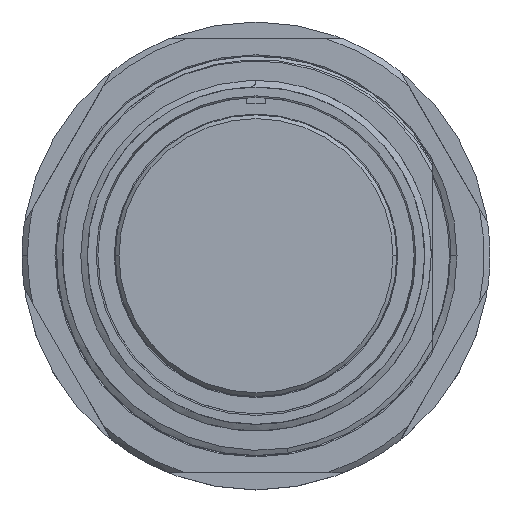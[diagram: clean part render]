
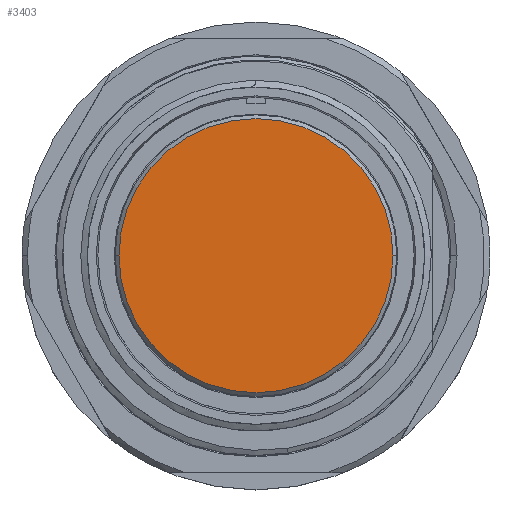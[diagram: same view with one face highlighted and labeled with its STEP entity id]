
A CAD part, top view. The second image highlights one B-rep face of the part: STEP entity #3403.
In plain terms, the highlighted planar face has unit normal (0, 0, 1).
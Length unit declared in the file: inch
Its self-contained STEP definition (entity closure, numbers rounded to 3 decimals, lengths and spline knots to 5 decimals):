
#9 = CARTESIAN_POINT ( 'NONE',  ( 0., 0., -0.018 ) ) ;
#742 = CARTESIAN_POINT ( 'NONE',  ( 0., 0., -0.018 ) ) ;
#811 = FACE_OUTER_BOUND ( 'NONE', #9049, .T. ) ;
#1071 = AXIS2_PLACEMENT_3D ( 'NONE', #742, #5750, #7864 ) ;
#1556 = VERTEX_POINT ( 'NONE', #6084 ) ;
#2338 = EDGE_CURVE ( 'NONE', #1556, #12700, #5077, .T. ) ;
#3181 = AXIS2_PLACEMENT_3D ( 'NONE', #4504, #9316, #9453 ) ;
#3403 = ADVANCED_FACE ( 'NONE', ( #811 ), #11998, .T. ) ;
#4141 = CARTESIAN_POINT ( 'NONE',  ( 0.7295, 0., -0.018 ) ) ;
#4504 = CARTESIAN_POINT ( 'NONE',  ( 0., 0., -0.018 ) ) ;
#4921 = EDGE_CURVE ( 'NONE', #12700, #1556, #6759, .T. ) ;
#5077 = CIRCLE ( 'NONE', #3181, 0.7295 ) ;
#5750 = DIRECTION ( 'NONE',  ( 0., 0., 1. ) ) ;
#6084 = CARTESIAN_POINT ( 'NONE',  ( -0.7295, 0., -0.018 ) ) ;
#6640 = ORIENTED_EDGE ( 'NONE', *, *, #2338, .T. ) ;
#6759 = CIRCLE ( 'NONE', #1071, 0.7295 ) ;
#7864 = DIRECTION ( 'NONE',  ( 1., 0., 0. ) ) ;
#8062 = DIRECTION ( 'NONE',  ( 1., 0., 0. ) ) ;
#8550 = AXIS2_PLACEMENT_3D ( 'NONE', #9, #10109, #8062 ) ;
#9049 = EDGE_LOOP ( 'NONE', ( #6640, #9692 ) ) ;
#9316 = DIRECTION ( 'NONE',  ( 0., 0., 1. ) ) ;
#9453 = DIRECTION ( 'NONE',  ( 1., 0., 0. ) ) ;
#9692 = ORIENTED_EDGE ( 'NONE', *, *, #4921, .T. ) ;
#10109 = DIRECTION ( 'NONE',  ( 0., 0., 1. ) ) ;
#11998 = PLANE ( 'NONE',  #8550 ) ;
#12700 = VERTEX_POINT ( 'NONE', #4141 ) ;
